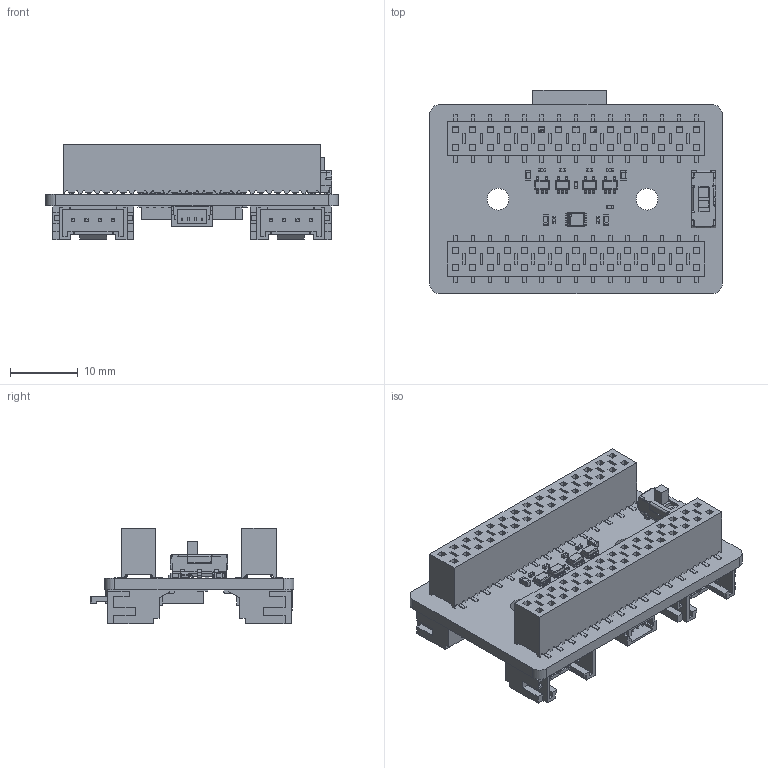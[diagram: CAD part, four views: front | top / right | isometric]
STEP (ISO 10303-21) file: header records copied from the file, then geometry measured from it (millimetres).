
FILE_DESCRIPTION(('Open CASCADE Model'),'2;1');
FILE_NAME('Open CASCADE Shape Model','2026-01-19T10:42:11',('Author'),( 'Open CASCADE'),'Open CASCADE STEP processor 7.5','Open CASCADE 7.5' ,'Unknown');
FILE_SCHEMA(('AUTOMOTIVE_DESIGN { 1 0 10303 214 1 1 1 1 }'));
Length unit declared in the file: millimetre
Products named in the file (58): PCB; Board; Open CASCADE STEP translator 7.5 1.1.1; C10; CAP-0603; U5; 8590910256; Body; Open CASCADE STEP translator 6.8 16.1.1; Leader; U3; U2; U1; R1; RES-0402; C9; CAP-0402; C8; C3; C2; C1; U4; 8590910176; Open CASCADE STEP translator 6.8 18.1; Open CASCADE STEP translator 6.8 18.2.1; R6; C7; C6; C5; C4; S1; CL-SB-22A-01T; J2; SSM-115-L-DV-FR; _SSM-115-L-DV_body; _C-137-0115; J3; J9; 19tw-512 v1; microsd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
Assembly tree (84 placements, depth 5):
  PCB
    Board
      Open CASCADE STEP translator 7.5 1.1.1
    C10
      CAP-0603
    U5
      8590910256
        Body
          Open CASCADE STEP translator 6.8 16.1.1
        Leader  x5
    U3
      8590910256
        Body
          Open CASCADE STEP translator 6.8 16.1.1
        Leader  x5
    U2
      8590910256
        Body
          Open CASCADE STEP translator 6.8 16.1.1
        Leader  x5
    U1
      8590910256
        Body
          Open CASCADE STEP translator 6.8 16.1.1
        Leader  x5
    R1
      RES-0402
    C9
      CAP-0402
    C8
      CAP-0603
    C3
      CAP-0402
    C2
      CAP-0402
    C1
      CAP-0402
    U4
      8590910176
        Open CASCADE STEP translator 6.8 18.1
        Body
          Open CASCADE STEP translator 6.8 18.2.1
        Leader  x8
    R6
      RES-0402
    C7
      CAP-0402
    C6
      CAP-0603
    C5
      CAP-0402
    C4
      CAP-0603
    S1
      CL-SB-22A-01T
      CL-SB-22A-01T
      CL-SB-22A-01T
      CL-SB-22A-01T
      CL-SB-22A-01T
      CL-SB-22A-01T
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Bounding box: 43.18 x 30.07 x 14.13 mm (x, y, z)
Volume: 5758 mm3; surface area: 10856.1 mm2
Topology: 66 solids, 67 shells, 4284 faces, 11041 edges, 6833 vertices
Faces by surface type: plane 3166, cylinder 874, sphere 122, bspline 120, cone 2
Full cylindrical faces by diameter (mm): 0.3 x1, 0.8 x3, 1 x3, 3.2 x2
Entity records: 67347 total; most frequent: CARTESIAN_POINT 11808, ORIENTED_EDGE 9569, DIRECTION 8872, EDGE_CURVE 4785, LINE 4110, VECTOR 4110, VERTEX_POINT 3095, AXIS2_PLACEMENT_3D 2381
